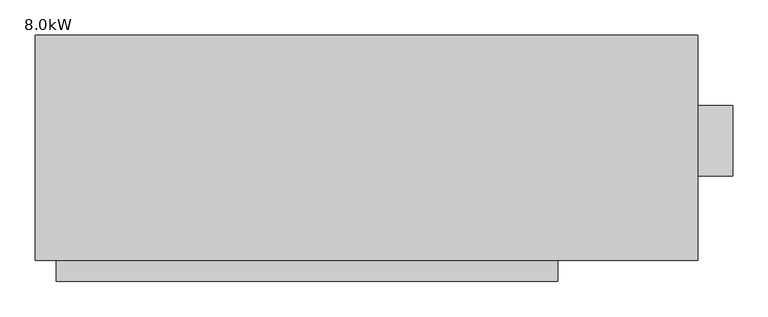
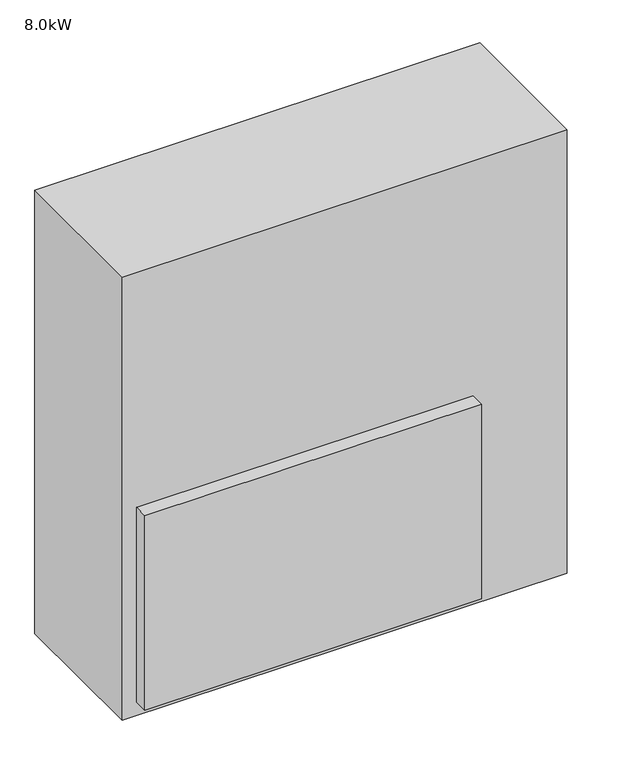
"""IFC4 building model written with IfcOpenShell, lengths in millimetres: unitary equipment geometry, 07051_PAC_屋外機_店舗用 : 8.0kW."""

from ifc_helpers import new_model, si_unit, point, frame, frame_2d, origin, place, context, project, spatial, polyline, circle_curve, trimmed, segment, composite_curve, outline, extrude, source, transform, mapped, element, save


def unitary_equipment_8_0kw_cc028bcb(model_context):
    return source(origin(), model_context, "Body", "SweptSolid", [
        extrude(outline(polyline([(741.25, -350.0), (30.0, -350.0), (30.0, -320.0), (741.25, -320.0), (741.25, -350.0)])), frame((0.0, 0.0, 180.0), z_axis=(0.0, 0.0, 1.0), x_axis=(1.0, 0.0, 0.0)), (0.0, 0.0, 1.0), 435.0),
        extrude(outline(composite_curve([segment(trimmed(circle_curve(frame_2d((297.5, -50.0)), 10.0), [point((297.5, -60.0))], [point((297.5, -40.0))], False, "CARTESIAN"), True, "CONTINUOUS"), segment(trimmed(circle_curve(frame_2d((297.5, -50.0)), 10.0), [point((297.5, -40.0))], [point((297.5, -60.0))], False, "CARTESIAN"), True, "CONTINUOUS")], self_intersect=False)), frame((0.0, 0.0, 140.0), z_axis=(0.0, 0.0, 1.0), x_axis=(1.0, 0.0, 0.0)), (0.0, 0.0, 1.0), 10.0),
        extrude(outline(composite_curve([segment(trimmed(circle_curve(frame_2d((-149.9899725, 300.0)), 50.0), [point((-199.9899725, 300.0))], [point((-99.9899725, 300.0))], False, "CARTESIAN"), True, "CONTINUOUS"), segment(trimmed(circle_curve(frame_2d((-149.9899725, 300.0)), 50.0), [point((-99.9899725, 300.0))], [point((-199.9899725, 300.0))], False, "CARTESIAN"), True, "CONTINUOUS")], self_intersect=False)), frame((940.0, 0.0, 0.0), z_axis=(1.0, 0.0, 0.0), x_axis=(0.0, 1.0, 0.0)), (0.0, 0.0, 1.0), 50.0),
        extrude(outline(polyline([(940.0, -320.0), (0.0, -320.0), (0.0, 0.0), (940.0, 0.0), (940.0, -320.0)])), frame((0.0, 0.0, 150.0), z_axis=(0.0, 0.0, 1.0), x_axis=(1.0, 0.0, 0.0)), (0.0, 0.0, 1.0), 990.0),
    ])


if __name__ == "__main__":
    model = new_model("IFC4")
    model_context = context("Model", 3, world=origin())
    ifc_project = project(units=[si_unit("LENGTHUNIT", "METRE", prefix="MILLI")], contexts=[model_context])
    site = spatial("IfcSite", under=ifc_project)
    building = spatial("IfcBuilding", under=site)
    placement = place(None, origin())
    unitary_equipment_8_0kw_shape = unitary_equipment_8_0kw_cc028bcb(model_context)
    element("IfcUnitaryEquipment", 1, ObjectType="07051_PAC_屋外機_店舗用 : 8.0kW", at=placement, inside=building, context=model_context, shape_type="MappedRepresentation", body=[
        mapped(unitary_equipment_8_0kw_shape, transform((0.0, 0.0, 0.0), x_axis=(1.0, 0.0, 0.0), y_axis=(0.0, 1.0, 0.0), z_axis=(0.0, 0.0, 1.0))),
    ])
    save(model, "model.ifc")
